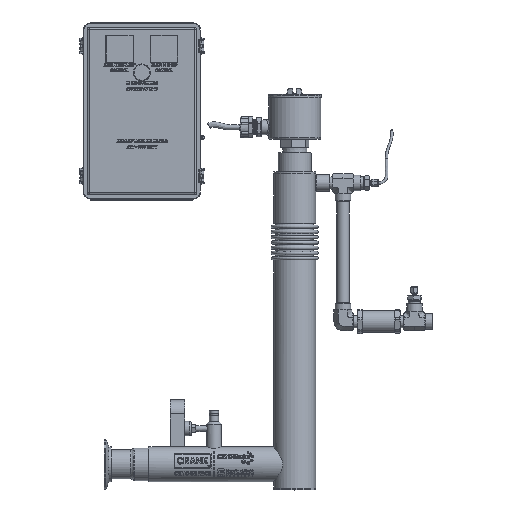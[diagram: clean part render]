
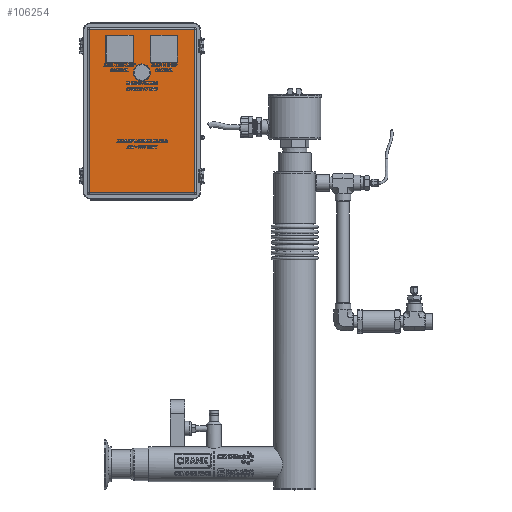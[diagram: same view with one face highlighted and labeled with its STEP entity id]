
A CAD part, top view. The second image highlights one B-rep face of the part: STEP entity #106254.
In plain terms, the highlighted planar face has unit normal (0, 0, 1).
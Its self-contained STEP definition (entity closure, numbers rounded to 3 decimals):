
#97 = CARTESIAN_POINT ( 'NONE',  ( 4.978, 29.215, 1.201 ) ) ;
#616 = VECTOR ( 'NONE', #20137, 39.37 ) ;
#2593 = DIRECTION ( 'NONE',  ( -1., 0., 0. ) ) ;
#2852 = CARTESIAN_POINT ( 'NONE',  ( 0.185, 29.215, 1.201 ) ) ;
#2951 = VECTOR ( 'NONE', #96312, 39.37 ) ;
#4762 = LINE ( 'NONE', #67304, #108823 ) ;
#4830 = CARTESIAN_POINT ( 'NONE',  ( 4.978, 29.215, 1.201 ) ) ;
#6681 = AXIS2_PLACEMENT_3D ( 'NONE', #97425, #111571, #47404 ) ;
#10521 = LINE ( 'NONE', #90531, #10805 ) ;
#10805 = VECTOR ( 'NONE', #76382, 39.37 ) ;
#12729 = ORIENTED_EDGE ( 'NONE', *, *, #164483, .T. ) ;
#13241 = ORIENTED_EDGE ( 'NONE', *, *, #109388, .F. ) ;
#15077 = DIRECTION ( 'NONE',  ( 0., 1., 0. ) ) ;
#15113 = CARTESIAN_POINT ( 'NONE',  ( 1.957, 29.215, 1.201 ) ) ;
#15631 = CARTESIAN_POINT ( 'NONE',  ( 3.207, 29.215, 1.201 ) ) ;
#16089 = CARTESIAN_POINT ( 'NONE',  ( 4.978, 27.444, 1.201 ) ) ;
#17830 = VECTOR ( 'NONE', #61195, 39.37 ) ;
#18254 = VERTEX_POINT ( 'NONE', #2852 ) ;
#18750 = DIRECTION ( 'NONE',  ( 0., 0., 1. ) ) ;
#18921 = LINE ( 'NONE', #57300, #100054 ) ;
#19380 = ORIENTED_EDGE ( 'NONE', *, *, #64188, .F. ) ;
#20137 = DIRECTION ( 'NONE',  ( 1., 0., 0. ) ) ;
#21496 = VERTEX_POINT ( 'NONE', #144239 ) ;
#25140 = CARTESIAN_POINT ( 'NONE',  ( 0.185, 29.215, 1.201 ) ) ;
#25154 = EDGE_CURVE ( 'NONE', #140856, #136683, #32377, .T. ) ;
#26502 = ORIENTED_EDGE ( 'NONE', *, *, #144497, .F. ) ;
#26752 = LINE ( 'NONE', #97, #144080 ) ;
#28974 = LINE ( 'NONE', #15631, #141938 ) ;
#31298 = LINE ( 'NONE', #108004, #2951 ) ;
#32377 = LINE ( 'NONE', #71535, #136705 ) ;
#33720 = EDGE_LOOP ( 'NONE', ( #158000, #84474, #26502, #13241 ) ) ;
#40746 = ORIENTED_EDGE ( 'NONE', *, *, #80672, .T. ) ;
#42329 = DIRECTION ( 'NONE',  ( 1., 0., 0. ) ) ;
#44659 = FACE_OUTER_BOUND ( 'NONE', #123386, .T. ) ;
#44833 = AXIS2_PLACEMENT_3D ( 'NONE', #133019, #18750, #95491 ) ;
#46121 = VERTEX_POINT ( 'NONE', #56232 ) ;
#46627 = ORIENTED_EDGE ( 'NONE', *, *, #54696, .T. ) ;
#47404 = DIRECTION ( 'NONE',  ( 1., 0., 0. ) ) ;
#49648 = ORIENTED_EDGE ( 'NONE', *, *, #50618, .F. ) ;
#50316 = ORIENTED_EDGE ( 'NONE', *, *, #55973, .T. ) ;
#50618 = EDGE_CURVE ( 'NONE', #103118, #103118, #147885, .T. ) ;
#52635 = VERTEX_POINT ( 'NONE', #90902 ) ;
#54696 = EDGE_CURVE ( 'NONE', #75947, #46121, #10521, .T. ) ;
#54801 = VERTEX_POINT ( 'NONE', #79651 ) ;
#55973 = EDGE_CURVE ( 'NONE', #117926, #56247, #31298, .T. ) ;
#56232 = CARTESIAN_POINT ( 'NONE',  ( -1.001, 29.668, 1.201 ) ) ;
#56247 = VERTEX_POINT ( 'NONE', #142933 ) ;
#57300 = CARTESIAN_POINT ( 'NONE',  ( 0.185, 29.215, 1.201 ) ) ;
#59034 = VERTEX_POINT ( 'NONE', #126578 ) ;
#59289 = LINE ( 'NONE', #148553, #616 ) ;
#61195 = DIRECTION ( 'NONE',  ( 0., 1., 0. ) ) ;
#64188 = EDGE_CURVE ( 'NONE', #59034, #18254, #116841, .T. ) ;
#65972 = DIRECTION ( 'NONE',  ( 0., 1., 0. ) ) ;
#67059 = VERTEX_POINT ( 'NONE', #16089 ) ;
#67304 = CARTESIAN_POINT ( 'NONE',  ( 3.207, 27.444, 1.201 ) ) ;
#67752 = ORIENTED_EDGE ( 'NONE', *, *, #121643, .F. ) ;
#68506 = EDGE_CURVE ( 'NONE', #54801, #59034, #129377, .T. ) ;
#71475 = EDGE_LOOP ( 'NONE', ( #67752, #19380, #131312, #113362 ) ) ;
#71535 = CARTESIAN_POINT ( 'NONE',  ( 3.207, 29.215, 1.201 ) ) ;
#75947 = VERTEX_POINT ( 'NONE', #83147 ) ;
#76382 = DIRECTION ( 'NONE',  ( -1., 0., 0. ) ) ;
#78673 = LINE ( 'NONE', #142921, #147644 ) ;
#79651 = CARTESIAN_POINT ( 'NONE',  ( 1.957, 27.444, 1.201 ) ) ;
#80672 = EDGE_CURVE ( 'NONE', #56247, #75947, #122140, .T. ) ;
#83147 = CARTESIAN_POINT ( 'NONE',  ( 6.164, 29.668, 1.201 ) ) ;
#83324 = CARTESIAN_POINT ( 'NONE',  ( 3.207, 29.215, 1.201 ) ) ;
#84474 = ORIENTED_EDGE ( 'NONE', *, *, #25154, .F. ) ;
#85389 = CARTESIAN_POINT ( 'NONE',  ( 6.164, 29.784, 1.201 ) ) ;
#88268 = VECTOR ( 'NONE', #65972, 39.37 ) ;
#90531 = CARTESIAN_POINT ( 'NONE',  ( -1.117, 29.668, 1.201 ) ) ;
#90902 = CARTESIAN_POINT ( 'NONE',  ( 3.207, 27.444, 1.201 ) ) ;
#95491 = DIRECTION ( 'NONE',  ( 0., 1., 0. ) ) ;
#96312 = DIRECTION ( 'NONE',  ( 1., 0., 0. ) ) ;
#97126 = PLANE ( 'NONE',  #44833 ) ;
#97425 = CARTESIAN_POINT ( 'NONE',  ( 2.582, 26.715, 1.201 ) ) ;
#100054 = VECTOR ( 'NONE', #108163, 39.37 ) ;
#100637 = CARTESIAN_POINT ( 'NONE',  ( 3.019, 26.715, 1.201 ) ) ;
#103118 = VERTEX_POINT ( 'NONE', #100637 ) ;
#104052 = DIRECTION ( 'NONE',  ( 0., -1., 0. ) ) ;
#106254 = ADVANCED_FACE ( 'NONE', ( #122967, #135483, #120489, #44659 ), #97126, .T. ) ;
#108004 = CARTESIAN_POINT ( 'NONE',  ( 6.28, 18.513, 1.201 ) ) ;
#108163 = DIRECTION ( 'NONE',  ( 0., -1., 0. ) ) ;
#108823 = VECTOR ( 'NONE', #42329, 39.37 ) ;
#109388 = EDGE_CURVE ( 'NONE', #52635, #67059, #4762, .T. ) ;
#111571 = DIRECTION ( 'NONE',  ( 0., 0., 1. ) ) ;
#113362 = ORIENTED_EDGE ( 'NONE', *, *, #115930, .F. ) ;
#115930 = EDGE_CURVE ( 'NONE', #21496, #54801, #59289, .T. ) ;
#116360 = EDGE_CURVE ( 'NONE', #136683, #52635, #28974, .T. ) ;
#116841 = LINE ( 'NONE', #25140, #122335 ) ;
#117926 = VERTEX_POINT ( 'NONE', #160125 ) ;
#120489 = FACE_BOUND ( 'NONE', #71475, .T. ) ;
#121007 = EDGE_LOOP ( 'NONE', ( #49648 ) ) ;
#121643 = EDGE_CURVE ( 'NONE', #18254, #21496, #18921, .T. ) ;
#122140 = LINE ( 'NONE', #85389, #17830 ) ;
#122335 = VECTOR ( 'NONE', #2593, 39.37 ) ;
#122967 = FACE_BOUND ( 'NONE', #121007, .T. ) ;
#123386 = EDGE_LOOP ( 'NONE', ( #50316, #40746, #46627, #12729 ) ) ;
#126578 = CARTESIAN_POINT ( 'NONE',  ( 1.957, 29.215, 1.201 ) ) ;
#129377 = LINE ( 'NONE', #15113, #88268 ) ;
#131312 = ORIENTED_EDGE ( 'NONE', *, *, #68506, .F. ) ;
#133019 = CARTESIAN_POINT ( 'NONE',  ( 2.582, 24.09, 1.201 ) ) ;
#135483 = FACE_BOUND ( 'NONE', #33720, .T. ) ;
#136683 = VERTEX_POINT ( 'NONE', #83324 ) ;
#136705 = VECTOR ( 'NONE', #160774, 39.37 ) ;
#140856 = VERTEX_POINT ( 'NONE', #4830 ) ;
#141938 = VECTOR ( 'NONE', #104052, 39.37 ) ;
#142921 = CARTESIAN_POINT ( 'NONE',  ( -1.001, 18.397, 1.201 ) ) ;
#142933 = CARTESIAN_POINT ( 'NONE',  ( 6.164, 18.513, 1.201 ) ) ;
#143725 = DIRECTION ( 'NONE',  ( 0., -1., 0. ) ) ;
#144080 = VECTOR ( 'NONE', #15077, 39.37 ) ;
#144239 = CARTESIAN_POINT ( 'NONE',  ( 0.185, 27.444, 1.201 ) ) ;
#144497 = EDGE_CURVE ( 'NONE', #67059, #140856, #26752, .T. ) ;
#147644 = VECTOR ( 'NONE', #143725, 39.37 ) ;
#147885 = CIRCLE ( 'NONE', #6681, 0.437 ) ;
#148553 = CARTESIAN_POINT ( 'NONE',  ( 0.185, 27.444, 1.201 ) ) ;
#158000 = ORIENTED_EDGE ( 'NONE', *, *, #116360, .F. ) ;
#160125 = CARTESIAN_POINT ( 'NONE',  ( -1.001, 18.513, 1.201 ) ) ;
#160774 = DIRECTION ( 'NONE',  ( -1., 0., 0. ) ) ;
#164483 = EDGE_CURVE ( 'NONE', #46121, #117926, #78673, .T. ) ;
